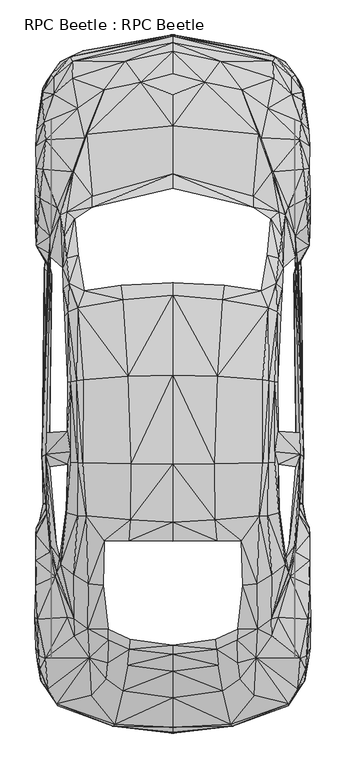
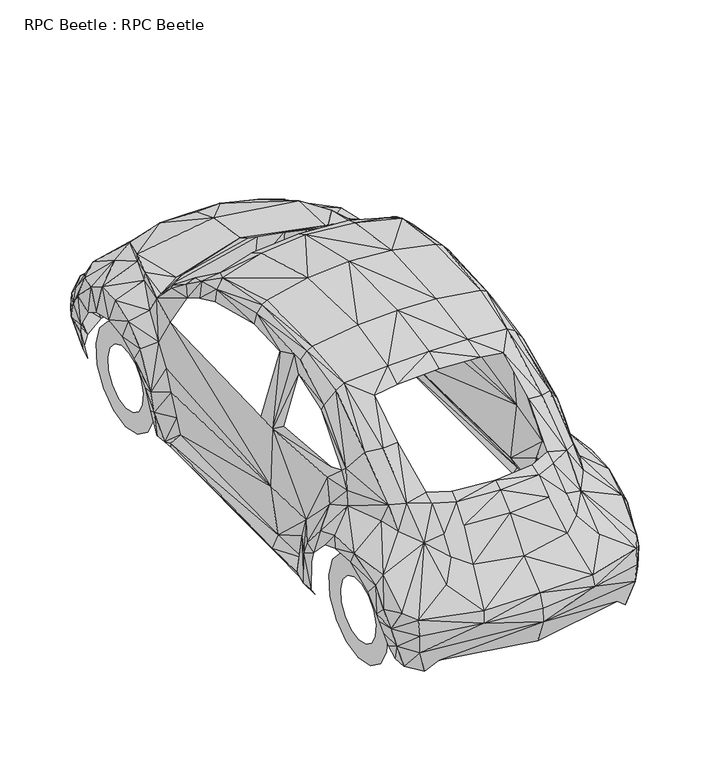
"""IFC4 building model written with IfcOpenShell, lengths in millimetres: proxy geometry, RPC Beetle : RPC Beetle."""

from ifc_helpers import new_model, si_unit, origin, place, context, project, spatial, triangles, source, transform, mapped, element, save


def rpc_beetle_rpc_beetle_e6dad58a(model_context):
    return source(origin(), model_context, "Body", "Tessellation", [
        triangles([(0.0, -748.5645555, 521.3897593), (0.0, -720.145796, 603.6245653), (0.0, -696.6751356, 283.1364967), (0.0, -552.6985313, 738.4055826), (0.0, -753.24988, 438.4543419), (0.0, -253.6668202, 1039.7142986), (0.0, -401.1027337, 921.397756), (0.0, -304.8118089, 1012.2589251), (0.0, 339.3171518, 1395.7149525), (0.0, 448.6132421, 1442.130724), (0.0, 778.0780157, 1504.0475842), (0.0, 1285.0174942, 1509.4774853), (0.0, 1741.0748314, 1402.3269035), (0.0, 2430.9628086, 967.2005562), (0.0, 3130.0025528, 632.0433249), (0.0, 3001.4394699, 771.5097393), (0.0, 2704.2468544, 928.754211), (0.0, 3164.2013374, 220.1686106), (0.0, 2883.1667473, 858.7363918), (0.0, 3222.5277191, 395.8043289), (0.0, 3179.0018875, 555.7637512), (0.0, 3213.9451035, 530.2788242), (-338.1786312, -715.5042189, 523.0099365), (-331.0411308, -702.1487114, 593.4656287), (-244.7339716, -218.0229748, 1034.0655882), (-248.9814594, -275.9551764, 1002.9319508), (-257.7391552, -368.1737844, 911.8518997), (-249.0690268, 342.8202084, 1381.001897), (-285.2383307, -511.5373446, 760.4312004), (-240.1361781, 460.085834, 1426.5857426), (-236.4579324, 780.8804609, 1493.4070999), (-652.4925127, -590.2252742, 370.4945729), (-540.0874552, -593.3342777, 283.4430006), (-181.240627, 2954.2792671, 806.3215679), (-253.1851454, 1278.5806778, 1496.1656525), (-379.8652946, -444.3657907, 798.2645016), (-370.9324459, -353.3294506, 889.169418), (-367.9986134, -222.226679, 1003.4574274), (-368.3927027, -160.7038173, 1036.6928988), (-390.1556185, 342.8640284, 1359.0200993), (-282.5672364, 1713.2691158, 1399.3055763), (-397.3369025, 87.4894363, 1215.350017), (-463.1072702, -537.7666666, 704.819842), (-271.488752, 3072.3331078, 662.6953056), (-475.7621301, -323.0715955, 849.8473269), (-463.7202779, 3085.9075699, 214.2571618), (-482.2428391, 95.7654664, 1203.3957321), (-485.0452844, -159.3025947, 1005.0776047), (-568.725133, 3071.5011818, 546.7432989), (-493.54026, 483.2499724, 1391.2922573), (-583.2629085, 3099.3942467, 522.0465869), (-510.267473, 3132.2794487, 369.399836), (-391.8633631, 2911.6292542, 782.7633402), (-656.3459112, -597.8445039, 480.0971852), (-660.2431297, -584.8393021, 576.2567591), (-562.2882076, -200.069692, 879.711129), (-560.0550227, -101.4579695, 987.1680874), (-512.4569106, 786.1788294, 1448.4362984), (-541.7951998, 484.7825824, 1359.8520252), (-563.9959886, 148.5744068, 1172.3059147), (-608.4850971, -561.2372907, 218.460866), (-511.2746063, 1258.5255066, 1456.1868427), (-542.4082438, 784.6900394, 1430.6581684), (-458.8597824, 2304.063723, 949.0283369), (-601.0410384, -92.7440574, 893.1979511), (-503.7429803, 1765.2899231, 1320.9679161), (-546.0426876, 1253.0081108, 1441.51768), (-603.0115213, 501.1594534, 1278.5806778), (-580.1539412, 788.8937799, 1378.7250011), (-607.2152255, 519.8571493, 1235.1424862), (-601.2599931, 965.2738569, 1337.0383015), (-712.482819, -503.0861526, 590.4880125), (-542.6709821, 1670.0499516, 1361.1657532), (-490.6064275, 2657.8746849, 893.5044731), (-599.6398158, 778.0780157, 1307.3059593), (-598.0634222, 1243.7249565, 1343.7817852), (-639.5749146, 208.1267766, 1062.4843477), (-680.4296156, -470.200987, 218.6798025), (-538.4672779, 1966.7170177, 1180.5819357), (-580.9859035, 1248.2351463, 1401.7577522), (-644.5230137, 243.2889472, 1028.2854904), (-502.3417577, 2635.8053925, 866.0052795), (-660.7247864, 162.2364272, 955.2462713), (-690.2382465, -396.5925076, 226.8244725), (-559.1354568, 2175.0189835, 1011.1642244), (-670.1830753, 140.867628, 872.7049433), (-662.476351, 324.2976834, 1009.4564798), (-615.0971935, 1623.4589001, 1262.1161304), (-594.647933, 1646.0976345, 1321.2744381), (-589.4370955, 1809.603788, 1269.4287655), (-728.8159063, -481.9801008, 373.2094508), (-751.5859554, -454.4371236, 476.5503087), (-694.0478251, 315.3210511, 957.7860146), (-726.5826851, -327.3190833, 735.5593174), (-622.9353052, 1777.2441353, 1192.7989225), (-564.6528162, 2445.7196114, 934.1402195), (-731.7935589, -393.8776297, 324.1225488), (-571.0021379, 2444.2743507, 884.1775715), (-698.6456549, 279.8523585, 807.6352232), (-604.281393, 1949.7708138, 1170.4667828), (-587.422829, 3013.0873055, 200.1134757), (-690.9388578, 574.2424925, 283.6181534), (-750.2284801, -381.0038152, 396.9865969), (-627.533135, 1896.2612892, 1124.7078026), (-602.486081, 2215.5670898, 949.1596516), (-619.4322487, 2072.8166462, 1075.2705585), (-710.4685524, 549.6333478, 448.6132421), (-764.7225082, -360.3356363, 467.5298927), (-699.5214008, 762.6206743, 1015.4992796), (-763.3212856, -313.2191809, 670.9275066), (-757.8477098, -390.9437971, 564.6528162), (-717.4746655, 496.2989579, 583.5694304), (-722.7292866, 461.2243546, 180.9779068), (-717.6498728, 554.4500959, 179.883188), (-771.4659193, -341.8130751, 511.011868), (-573.9359705, 2975.4727409, 682.6190168), (-730.7864256, 375.880545, 185.1815928), (-541.1821558, 2805.3982384, 782.9385475), (-639.7501219, 2198.4457512, 944.2553724), (-738.9310593, 551.5600471, 222.4018318), (-781.5810722, -268.773856, 609.2294921), (-772.2979179, -106.055763, 755.9210106), (-721.7221533, 957.7422672, 967.0254215), (-703.3309793, 810.1311464, 292.3320837), (-724.8311932, 835.0468494, 964.354291), (-757.7601425, 370.5383566, 225.4670335), (-785.3469034, -89.941594, 695.4928677), (-779.654373, 80.9211599, 675.5690838), (-779.391671, 89.5037119, 754.6511026), (-760.3874531, 444.1030523, 223.1462268), (-778.0780157, 192.1001749, 630.9048042), (-658.6229525, 2237.154871, 849.7597595), (-770.9404427, 345.4913389, 426.193535), (-774.1807972, 315.1458801, 501.68493), (-781.1869829, 232.2542464, 695.886957), (-719.22623, 810.0873991, 185.8384204), (-689.8879045, 1858.8658974, 293.9084591), (-696.6751356, 1958.8788334, 956.4286119), (-779.7419403, 377.3693713, 532.3806581), (-778.121763, 416.9979481, 439.7241772), (-745.4993357, 819.5895081, 613.6521509), (-677.7147377, 2884.8305992, 670.6209846), (-697.5509542, 2077.4143307, 756.8843239), (-639.6187346, 3069.1803932, 391.6881921), (-713.0082956, 1918.243087, 536.7157496), (-718.1752768, 1909.8794987, 192.9759572), (-705.1701113, 1981.9554771, 648.2888449), (-730.7864256, 1891.0943081, 233.348947), (-673.9927265, 2907.8634956, 198.6684513), (-726.8892071, 2038.9242382, 189.9545391), (-721.634586, 1973.3728615, 189.9545391), (-678.1963943, 2982.566494, 540.5253282), (-699.6089682, 2815.6885986, 206.2000773), (-696.3686136, 2991.5871643, 517.4050097), (-723.6488525, 2624.6831062, 787.5801247), (-699.0834915, 1882.4679451, 390.3745368), (-764.8976429, 2042.1645927, 362.5688576), (-741.7773245, 2457.6738235, 808.6861765), (-716.1610102, 2965.1387787, 449.5328081), (-766.4302528, 2001.1348297, 376.5811563), (-731.5746042, 2724.4334129, 727.6336384), (-771.1593973, 2084.5957237, 482.2428391), (-759.1175451, 2291.4088268, 780.0922823), (-769.0137434, 2143.3161221, 699.0397442), (-777.5525391, 2022.8538528, 494.8101316), (-742.4779358, 2846.8660561, 601.8730371), (-782.1065489, 2185.659613, 616.4545961), (-739.5441032, 2918.4163399, 427.3758393), (-741.1204605, 2896.5223274, 519.8133657), (-750.4036148, 2804.4349251, 398.0813338), (-782.2378635, 2313.1717426, 680.7361376), (-778.0780157, 2462.7970573, 693.5223484), (-759.9057238, 2786.6130478, 455.2253386), (-774.1807972, 2682.8342079, 602.6612157), (-780.3549843, 2589.4335136, 666.3297495), (-742.6093231, 809.1240131, 220.3875652), (0.0, 2349.0782719, 1011.1642244), (-458.8597824, 2239.9573162, 1006.6102146), (0.0, 1812.0122166, 1368.2157589), (-293.9522428, 1795.8104439, 1359.1514866), (-580.2415086, 849.7160122, 1381.7900757), (338.1786312, -715.5042189, 523.0099365), (331.0411308, -702.1487114, 593.4656287), (244.7339716, -218.0229748, 1034.0655882), (248.9814594, -275.9551764, 1002.9319508), (257.7391552, -368.1737844, 911.8518997), (249.0690268, 342.8202084, 1381.001897), (285.2383307, -511.5373446, 760.4312004), (240.1361781, 460.085834, 1426.5857426), (236.4579324, 780.8804609, 1493.4070999), (652.4925127, -590.2252742, 370.4945729), (540.0874552, -593.3342777, 283.4430006), (181.240627, 2954.2792671, 806.3215679), (253.1851454, 1278.5806778, 1496.1656525), (379.8652946, -444.3657907, 798.2645016), (370.9324459, -353.3294506, 889.169418), (367.9986134, -222.226679, 1003.4574274), (368.3927027, -160.7038173, 1036.6928988), (390.1556185, 342.8640284, 1359.0200993), (282.5672364, 1713.2691158, 1399.3055763), (397.3369025, 87.4894363, 1215.350017), (463.1072702, -537.7666666, 704.819842), (271.488752, 3072.3331078, 662.6953056), (475.7621301, -323.0715955, 849.8473269), (463.7202779, 3085.9075699, 214.2571618), (482.2428391, 95.7654664, 1203.3957321), (485.0452844, -159.3025947, 1005.0776047), (568.725133, 3071.5011818, 546.7432989), (493.54026, 483.2499724, 1391.2922573), (583.2629085, 3099.3942467, 522.0465869), (510.267473, 3132.2794487, 369.399836), (391.8633631, 2911.6292542, 782.7633402), (656.3459112, -597.8445039, 480.0971852), (660.2431297, -584.8393021, 576.2567591), (562.2882076, -200.069692, 879.711129), (560.0550227, -101.4579695, 987.1680874), (512.4569106, 786.1788294, 1448.4362984), (541.7951998, 484.7825824, 1359.8520252), (563.9959886, 148.5744068, 1172.3059147), (608.4850971, -561.2372907, 218.460866), (511.2746063, 1258.5255066, 1456.1868427), (542.4082438, 784.6900394, 1430.6581684), (458.8597824, 2304.063723, 949.0283369), (601.0410384, -92.7440574, 893.1979511), (503.7429803, 1765.2899231, 1320.9679161), (546.0426876, 1253.0081108, 1441.51768), (603.0115213, 501.1594534, 1278.5806778), (580.1539412, 788.8937799, 1378.7250011), (607.2152255, 519.8571493, 1235.1424862), (601.2599931, 965.2738569, 1337.0383015), (712.482819, -503.0861526, 590.4880125), (542.6709821, 1670.0499516, 1361.1657532), (490.6064275, 2657.8746849, 893.5044731), (599.6398158, 778.0780157, 1307.3059593), (598.0634222, 1243.7249565, 1343.7817852), (639.5749146, 208.1267766, 1062.4843477), (680.4734356, -470.200987, 218.6798025), (538.4672779, 1966.7170177, 1180.5819357), (580.9859035, 1248.2351463, 1401.7577522), (644.5230137, 243.2889472, 1028.2854904), (502.3417577, 2635.8053925, 866.0052795), (660.7247864, 162.2364272, 955.2462713), (690.2382465, -396.5925076, 226.8244725), (559.1354568, 2175.0189835, 1011.1642244), (670.1830753, 140.867628, 872.7049433), (662.476351, 324.2976834, 1009.4564798), (615.0971935, 1623.4589001, 1262.1161304), (594.647933, 1646.0976345, 1321.2744381), (589.4370955, 1809.603788, 1269.4287655), (728.8159063, -481.9801008, 373.2094508), (751.5859554, -454.4371236, 476.5503087), (694.0478251, 315.3210511, 957.7860146), (726.5826851, -327.3190833, 735.5593174), (622.9353052, 1777.2441353, 1192.7989225), (564.6528162, 2445.7196114, 934.1402195), (731.7935589, -393.8776297, 324.1225488), (571.0021379, 2444.2743507, 884.1775715), (698.6456549, 279.8523585, 807.6352232), (604.281393, 1949.7708138, 1170.4667828), (587.422829, 3013.0873055, 200.1134757), (690.9388578, 574.2424925, 283.6181534), (750.2284801, -381.0038152, 396.9865969), (627.533135, 1896.2612892, 1124.7078026), (602.486081, 2215.5670898, 949.1596516), (619.4322487, 2072.8166462, 1075.2705585), (710.4685524, 549.6333478, 448.6132421), (764.7225082, -360.3356363, 467.5298927), (699.5214008, 762.6206743, 1015.4992796), (763.3212856, -313.2191809, 670.9275066), (757.8477098, -390.9437971, 564.6528162), (717.4746655, 496.2989579, 583.5694304), (722.7292866, 461.2243546, 180.9779068), (717.6498728, 554.4500959, 179.883188), (771.4659193, -341.8130751, 511.011868), (573.9359705, 2975.4727409, 682.6190168), (730.7864256, 375.880545, 185.1815928), (541.1821558, 2805.3982384, 782.9385475), (639.7501219, 2198.4457512, 944.2553724), (738.9310593, 551.5600471, 222.4018318), (781.5810722, -268.773856, 609.2294921), (772.2979179, -106.055763, 755.9210106), (721.7659733, 957.7422672, 967.0254215), (703.3309793, 810.1311464, 292.3320837), (724.8311932, 835.0468494, 964.354291), (757.7601425, 370.5383566, 225.4670335), (785.3469034, -89.941594, 695.4928677), (779.654373, 80.9211599, 675.5690838), (779.4354183, 89.5037119, 754.6511026), (760.3874531, 444.1030523, 223.1462268), (778.0780157, 192.1001749, 630.9048042), (658.6229525, 2237.154871, 849.7597595), (770.9404427, 345.4913389, 426.193535), (774.1807972, 315.1458801, 501.68493), (781.1869829, 232.2542464, 695.886957), (719.22623, 810.0873991, 185.8384204), (689.8879045, 1858.8658974, 293.9084591), (696.6751356, 1958.8788334, 956.4286119), (779.7419403, 377.3693713, 532.3806581), (778.121763, 416.9979481, 439.7241772), (745.4993357, 819.5895081, 613.6521509), (677.7147377, 2884.8305992, 670.6209846), (697.5509542, 2077.4143307, 756.8843239), (639.6187346, 3069.1803932, 391.6881921), (713.0082956, 1918.243087, 536.7157496), (718.1752768, 1909.8794987, 192.9759572), (705.1701113, 1981.9554771, 648.2888449), (730.7864256, 1891.0943081, 233.348947), (673.9927265, 2907.8634956, 198.6684513), (726.8892071, 2038.9242382, 189.9545391), (721.634586, 1973.3728615, 189.9545391), (678.1963943, 2982.566494, 540.5253282), (699.6089682, 2815.6885986, 206.2000773), (696.3686136, 2991.5871643, 517.4050097), (723.6488525, 2624.6831062, 787.5801247), (699.0834915, 1882.4679451, 390.3745368), (764.8976429, 2042.1645927, 362.5688576), (741.7773245, 2457.6738235, 808.6861765), (716.1610102, 2965.1387787, 449.5328081), (766.4302528, 2001.1348297, 376.5811563), (731.5746042, 2724.4334129, 727.6336384), (771.2032173, 2084.5957237, 482.2428391), (759.1175451, 2291.4088268, 780.0922823), (769.0137434, 2143.3161221, 699.0397442), (777.5525391, 2022.8538528, 494.8101316), (742.4779358, 2846.8660561, 601.8730371), (782.1065489, 2185.659613, 616.4545961), (739.5441032, 2918.4163399, 427.3758393), (741.1204605, 2896.5223274, 519.8133657), (750.4036148, 2804.4349251, 398.0813338), (782.2378635, 2313.1717426, 680.7361376), (778.0780157, 2462.7970573, 693.5223484), (759.9057238, 2786.6130478, 455.2253386), (774.1807972, 2682.8342079, 602.6612157), (780.3549843, 2589.4335136, 666.3297495), (742.6093231, 809.1240131, 220.3875652), (458.8597824, 2239.9573162, 1006.6102146), (293.9522428, 1795.8104439, 1359.1514866), (580.2415086, 849.7160122, 1381.7900757), (-693.1720791, 2430.2621246, 0.0015107), (-693.1720791, 2430.2621246, 117.8363848), (-693.1720791, 2557.1174629, 26.9752316), (-693.1720791, 2507.7678589, 134.3008595), (-693.1720791, 2661.9910034, 103.1672311), (-693.1720791, 2571.918013, 180.8918292), (-693.1720791, 2726.8416962, 215.4847577), (-693.1720791, 2611.5466988, 249.5522095), (-693.1720791, 2740.4161583, 344.4419117), (-693.1720791, 2619.8226471, 328.3715263), (-693.1720791, 2700.3497086, 467.7941208), (-693.1720791, 2595.3447807, 403.731534), (-693.1720791, 2613.56082, 564.1288656), (-693.1720791, 2542.3169128, 462.6271033), (-693.1720791, 2495.1128174, 616.8940315), (-693.1720791, 2469.8908104, 494.899225), (-693.1720791, 2365.4114319, 616.8940315), (-693.1720791, 2390.6335842, 494.899225), (-693.1720791, 2246.9634293, 564.1288656), (-693.1720791, 2318.2073364, 462.6271033), (-693.1720791, 2160.1746861, 467.7941208), (-693.1720791, 2265.1794685, 403.731534), (-693.1720791, 2120.108091, 344.4419117), (-693.1720791, 2240.7017475, 328.3715263), (-693.1720791, 2133.6825531, 215.4847577), (-693.1720791, 2248.9776958, 249.5522095), (-693.1720791, 2198.5333912, 103.1672311), (-693.1720791, 2288.6063816, 180.8918292), (-693.1720791, 2303.4067863, 26.9752316), (-693.1720791, 2352.7565357, 134.3008595), (693.1720791, 2430.2621246, 0.0015107), (693.1720791, 2430.2621246, 117.8363848), (693.1720791, 2303.4067863, 26.9752316), (693.1720791, 2352.7565357, 134.3008595), (693.1720791, 2198.5333912, 103.1672311), (693.1720791, 2288.6063816, 180.8918292), (693.1720791, 2133.6825531, 215.4847577), (693.1720791, 2248.9776958, 249.5522095), (693.1720791, 2120.108091, 344.4419117), (693.1720791, 2240.7017475, 328.3715263), (693.1720791, 2160.1746861, 467.7941208), (693.1720791, 2265.1794685, 403.731534), (693.1720791, 2246.9634293, 564.1288656), (693.1720791, 2318.2073364, 462.6271033), (693.1720791, 2365.4114319, 616.8940315), (693.1720791, 2390.6335842, 494.899225), (693.1720791, 2495.1128174, 616.8940315), (693.1720791, 2469.8908104, 494.899225), (693.1720791, 2613.56082, 564.1288656), (693.1720791, 2542.3169128, 462.6271033), (693.1720791, 2700.3497086, 467.7941208), (693.1720791, 2595.3447807, 403.731534), (693.1720791, 2740.4161583, 344.4419117), (693.1720791, 2619.8226471, 328.3715263), (693.1720791, 2726.8416962, 215.4847577), (693.1720791, 2611.5466988, 249.5522095), (693.1720791, 2661.9910034, 103.1672311), (693.1720791, 2571.918013, 180.8918292), (693.1720791, 2557.1174629, 26.9752316), (693.1720791, 2507.7678589, 134.3008595), (-693.1720791, -13.5744371, 0.0015107), (-693.1720791, -13.5744371, 117.8363848), (-693.1720791, 113.2808671, 26.9752316), (-693.1720791, 63.9312222, 134.3008595), (-693.1720791, 218.154344, 103.1672311), (-693.1720791, 128.0813808, 180.8918292), (-693.1720791, 283.0051276, 215.4847577), (-693.1720791, 167.7099848, 249.5522095), (-693.1720791, 296.5795534, 344.4419117), (-693.1720791, 175.9860058, 328.3715263), (-693.1720791, 256.5130673, 467.7941208), (-693.1720791, 151.5082394, 403.731534), (-693.1720791, 169.7242514, 564.1288656), (-693.1720791, 98.4803533, 462.6271033), (-693.1720791, 51.2763442, 616.8940315), (-693.1720791, 26.0541623, 494.899225), (-693.1720791, -78.4252185, 616.8940315), (-693.1720791, -53.2030343, 494.899225), (-693.1720791, -196.8731212, 564.1288656), (-693.1720791, -125.6292322, 462.6271033), (-693.1720791, -283.6619552, 467.7941208), (-693.1720791, -178.6571182, 403.731534), (-693.1720791, -323.7284231, 344.4419117), (-693.1720791, -203.1348938, 328.3715263), (-693.1720791, -310.1539973, 215.4847577), (-693.1720791, -194.8588546, 249.5522095), (-693.1720791, -245.3032137, 103.1672311), (-693.1720791, -155.2302597, 180.8918292), (-693.1720791, -140.4297459, 26.9752316), (-693.1720791, -91.0800965, 134.3008595), (693.1720791, -13.5744371, 0.0015107), (693.1720791, -13.5744371, 117.8363848), (693.1720791, -140.4297459, 26.9752316), (693.1720791, -91.0800965, 134.3008595), (693.1720791, -245.3032137, 103.1672311), (693.1720791, -155.2302597, 180.8918292), (693.1720791, -310.1539973, 215.4847577), (693.1720791, -194.8588546, 249.5522095), (693.1720791, -323.7284231, 344.4419117), (693.1720791, -203.1348938, 328.3715263), (693.1720791, -283.6619552, 467.7941208), (693.1720791, -178.6571182, 403.731534), (693.1720791, -196.8731212, 564.1288656), (693.1720791, -125.6292322, 462.6271033), (693.1720791, -78.4252185, 616.8940315), (693.1720791, -53.2030343, 494.899225), (693.1720791, 51.2763442, 616.8940315), (693.1720791, 26.0541623, 494.899225), (693.1720791, 169.7242514, 564.1288656), (693.1720791, 98.4803533, 462.6271033), (693.1720791, 256.5130673, 467.7941208), (693.1720791, 151.5082394, 403.731534), (693.1720791, 296.5795534, 344.4419117), (693.1720791, 175.9860058, 328.3715263), (693.1720791, 283.0051276, 215.4847577), (693.1720791, 167.7099848, 249.5522095), (693.1720791, 218.154344, 103.1672311), (693.1720791, 128.0813808, 180.8918292), (693.1720791, 113.2808671, 26.9752316), (693.1720791, 63.9312222, 134.3008595)], [[67, 58, 62], [67, 63, 58], [53, 82, 74], [34, 17, 19], [118, 82, 53], [155, 98, 82], [155, 158, 98], [34, 74, 17], [172, 155, 175], [172, 158, 155], [159, 168, 169], [166, 142, 169], [175, 161, 174], [175, 155, 161], [142, 152, 169], [154, 169, 152], [160, 145, 165], [160, 156, 145], [162, 160, 165], [162, 157, 160], [34, 53, 74], [74, 96, 64], [82, 96, 74], [82, 98, 96], [36, 29, 27], [29, 43, 24], [23, 55, 54], [23, 24, 55], [23, 2, 24], [23, 1, 2], [5, 1, 23], [134, 140, 133], [134, 139, 140], [117, 130, 113], [117, 126, 130], [113, 120, 114], [113, 130, 120], [140, 112, 107], [140, 139, 112], [92, 108, 103], [91, 103, 97], [91, 92, 103], [61, 33, 32], [84, 78, 91], [84, 91, 97], [38, 26, 25], [77, 81, 83], [63, 50, 58], [63, 59, 50], [68, 63, 69], [68, 59, 63], [181, 75, 69], [74, 64, 17], [64, 14, 17], [64, 178, 14], [178, 177, 14], [34, 19, 16], [53, 34, 44], [21, 44, 15], [21, 49, 44], [44, 34, 15], [34, 16, 15], [22, 49, 21], [22, 51, 49], [20, 51, 22], [20, 52, 51], [18, 52, 20], [18, 46, 52], [51, 152, 49], [51, 154, 152], [101, 144, 46], [144, 52, 46], [101, 159, 144], [159, 169, 154], [101, 168, 159], [101, 149, 168], [149, 170, 168], [149, 153, 170], [168, 173, 169], [168, 170, 173], [49, 142, 116], [49, 152, 142], [49, 116, 44], [116, 142, 118], [161, 155, 118], [155, 82, 118], [142, 161, 118], [158, 132, 98], [158, 163, 132], [172, 163, 158], [172, 171, 163], [98, 119, 96], [98, 132, 119], [171, 164, 163], [171, 167, 164], [163, 143, 132], [163, 164, 143], [96, 105, 64], [96, 119, 105], [105, 178, 64], [105, 85, 178], [167, 165, 164], [167, 162, 165], [165, 143, 164], [165, 147, 143], [150, 160, 157], [150, 151, 160], [151, 156, 160], [151, 148, 137], [13, 35, 12], [13, 41, 35], [12, 31, 11], [12, 35, 31], [35, 58, 31], [35, 62, 58], [11, 30, 10], [11, 31, 30], [31, 50, 30], [31, 58, 50], [10, 28, 9], [10, 30, 28], [30, 40, 28], [30, 50, 40], [125, 75, 181], [125, 109, 75], [125, 87, 109], [125, 93, 87], [123, 141, 125], [137, 141, 156], [137, 124, 141], [148, 124, 137], [148, 176, 124], [146, 176, 148], [146, 136, 176], [141, 112, 125], [112, 93, 125], [112, 99, 93], [124, 112, 141], [124, 107, 112], [124, 102, 107], [176, 102, 124], [176, 120, 102], [136, 120, 176], [136, 114, 120], [47, 40, 50], [47, 42, 40], [48, 42, 47], [48, 39, 42], [57, 47, 60], [57, 48, 47], [60, 50, 59], [60, 47, 50], [59, 77, 60], [59, 68, 77], [77, 57, 60], [77, 83, 57], [70, 77, 68], [70, 81, 77], [75, 68, 69], [75, 70, 68], [26, 6, 25], [26, 8, 6], [27, 8, 26], [27, 7, 8], [29, 7, 27], [29, 4, 7], [24, 4, 29], [24, 2, 4], [32, 5, 23], [33, 5, 32], [33, 3, 5], [32, 23, 54], [55, 45, 72], [55, 24, 43], [99, 83, 93], [99, 86, 83], [135, 86, 99], [135, 129, 86], [131, 129, 135], [131, 128, 129], [93, 81, 87], [93, 83, 81], [128, 122, 129], [128, 127, 122], [122, 86, 129], [122, 65, 86], [86, 57, 83], [86, 65, 57], [127, 110, 122], [127, 121, 110], [110, 94, 122], [122, 94, 65], [94, 56, 65], [56, 57, 65], [56, 48, 57], [56, 45, 48], [94, 45, 56], [115, 110, 121], [115, 111, 110], [111, 94, 110], [111, 72, 94], [108, 92, 115], [92, 111, 115], [78, 32, 91], [78, 61, 32], [45, 38, 48], [45, 37, 38], [37, 26, 38], [37, 27, 26], [36, 27, 37], [134, 135, 139], [134, 131, 135], [139, 99, 112], [139, 135, 99], [126, 140, 130], [126, 133, 140], [130, 107, 120], [130, 140, 107], [120, 107, 102], [45, 36, 37], [92, 55, 72], [92, 54, 55], [91, 54, 92], [91, 32, 54], [92, 72, 111], [72, 45, 94], [43, 45, 55], [43, 36, 45], [43, 29, 36], [79, 90, 66], [79, 100, 90], [90, 73, 66], [85, 100, 79], [85, 106, 100], [85, 105, 106], [105, 119, 106], [95, 88, 89], [90, 89, 73], [89, 67, 73], [73, 67, 62], [89, 76, 80], [89, 80, 67], [88, 76, 89], [73, 35, 41], [73, 62, 35], [69, 63, 181], [80, 63, 67], [76, 71, 80], [146, 148, 151], [141, 147, 145], [151, 137, 156], [173, 166, 169], [173, 174, 166], [166, 174, 161], [166, 161, 142], [52, 144, 51], [144, 154, 51], [144, 159, 154], [116, 53, 44], [116, 118, 53], [119, 143, 138], [143, 119, 132], [143, 147, 138], [138, 104, 119], [119, 104, 106], [104, 100, 106], [104, 90, 100], [104, 95, 90], [95, 89, 90], [25, 39, 38], [38, 39, 48], [141, 138, 147], [156, 141, 145], [165, 145, 147], [41, 179, 180], [41, 13, 179], [66, 41, 180], [66, 73, 41], [123, 125, 71], [125, 181, 71], [71, 181, 80], [181, 63, 80], [138, 141, 123], [226, 221, 217], [226, 217, 222], [212, 233, 241], [193, 19, 17], [277, 212, 241], [314, 241, 257], [314, 257, 317], [193, 17, 233], [331, 334, 314], [331, 314, 317], [318, 328, 327], [325, 328, 301], [334, 333, 320], [334, 320, 314], [301, 328, 311], [313, 311, 328], [319, 324, 304], [319, 304, 315], [321, 324, 319], [321, 319, 316], [193, 233, 212], [233, 223, 255], [241, 233, 255], [241, 255, 257], [195, 186, 188], [188, 183, 202], [182, 213, 214], [182, 214, 183], [182, 183, 2], [182, 2, 1], [5, 182, 1], [293, 292, 299], [293, 299, 298], [276, 272, 289], [276, 289, 285], [272, 273, 279], [272, 279, 289], [299, 266, 271], [299, 271, 298], [251, 262, 267], [250, 256, 262], [250, 262, 251], [220, 191, 192], [243, 250, 237], [243, 256, 250], [197, 184, 185], [236, 242, 240], [222, 217, 209], [222, 209, 218], [227, 228, 222], [227, 222, 218], [338, 228, 234], [233, 17, 223], [223, 17, 14], [223, 14, 336], [336, 14, 177], [193, 16, 19], [212, 203, 193], [21, 15, 203], [21, 203, 208], [203, 15, 193], [193, 15, 16], [22, 21, 208], [22, 208, 210], [20, 22, 210], [20, 210, 211], [18, 20, 211], [18, 211, 205], [210, 208, 311], [210, 311, 313], [260, 205, 303], [303, 205, 211], [260, 303, 318], [318, 313, 328], [260, 318, 327], [260, 327, 308], [308, 327, 329], [308, 329, 312], [327, 328, 332], [327, 332, 329], [208, 275, 301], [208, 301, 311], [208, 203, 275], [275, 277, 301], [320, 277, 314], [314, 277, 241], [301, 277, 320], [317, 257, 291], [317, 291, 322], [331, 317, 322], [331, 322, 330], [257, 255, 278], [257, 278, 291], [330, 322, 323], [330, 323, 326], [322, 291, 302], [322, 302, 323], [255, 223, 264], [255, 264, 278], [264, 223, 336], [264, 336, 244], [326, 323, 324], [326, 324, 321], [324, 323, 302], [324, 302, 306], [309, 316, 319], [309, 319, 310], [310, 319, 315], [310, 296, 307], [13, 12, 194], [13, 194, 200], [12, 11, 190], [12, 190, 194], [194, 190, 217], [194, 217, 221], [11, 10, 189], [11, 189, 190], [190, 189, 209], [190, 209, 217], [10, 9, 187], [10, 187, 189], [189, 187, 199], [189, 199, 209], [284, 338, 234], [284, 234, 268], [284, 268, 246], [284, 246, 252], [282, 284, 300], [296, 315, 300], [296, 300, 283], [307, 296, 283], [307, 283, 335], [305, 307, 335], [305, 335, 295], [300, 284, 271], [271, 284, 252], [271, 252, 258], [283, 300, 271], [283, 271, 266], [283, 266, 261], [335, 283, 261], [335, 261, 279], [295, 335, 279], [295, 279, 273], [206, 209, 199], [206, 199, 201], [207, 206, 201], [207, 201, 198], [216, 219, 206], [216, 206, 207], [219, 218, 209], [219, 209, 206], [218, 219, 236], [218, 236, 227], [236, 219, 216], [236, 216, 242], [229, 227, 236], [229, 236, 240], [234, 228, 227], [234, 227, 229], [185, 184, 6], [185, 6, 8], [186, 185, 8], [186, 8, 7], [188, 186, 7], [188, 7, 4], [183, 188, 4], [183, 4, 2], [191, 182, 5], [192, 191, 5], [192, 5, 3], [191, 213, 182], [214, 231, 204], [214, 202, 183], [258, 252, 242], [258, 242, 245], [294, 258, 245], [294, 245, 288], [290, 294, 288], [290, 288, 287], [252, 246, 240], [252, 240, 242], [287, 288, 281], [287, 281, 286], [281, 288, 245], [281, 245, 224], [245, 242, 216], [245, 216, 224], [286, 281, 269], [286, 269, 280], [269, 281, 253], [281, 224, 253], [253, 224, 215], [215, 224, 216], [215, 216, 207], [215, 207, 204], [253, 215, 204], [274, 280, 269], [274, 269, 270], [270, 269, 253], [270, 253, 231], [267, 274, 251], [251, 274, 270], [237, 250, 191], [237, 191, 220], [204, 207, 197], [204, 197, 196], [196, 197, 185], [196, 185, 186], [195, 196, 186], [293, 298, 294], [293, 294, 290], [298, 271, 258], [298, 258, 294], [285, 289, 299], [285, 299, 292], [289, 279, 266], [289, 266, 299], [279, 261, 266], [204, 196, 195], [251, 231, 214], [251, 214, 213], [250, 251, 213], [250, 213, 191], [251, 270, 231], [231, 253, 204], [202, 214, 204], [202, 204, 195], [202, 195, 188], [238, 225, 249], [238, 249, 259], [249, 225, 232], [244, 238, 259], [244, 259, 265], [244, 265, 264], [264, 265, 278], [254, 248, 247], [249, 232, 248], [248, 232, 226], [232, 221, 226], [248, 239, 235], [248, 226, 239], [247, 248, 235], [232, 200, 194], [232, 194, 221], [228, 338, 222], [239, 226, 222], [235, 239, 230], [305, 310, 307], [300, 304, 306], [310, 315, 296], [332, 328, 325], [332, 325, 333], [325, 320, 333], [325, 301, 320], [211, 210, 303], [303, 210, 313], [303, 313, 318], [275, 203, 212], [275, 212, 277], [278, 297, 302], [302, 291, 278], [302, 297, 306], [297, 278, 263], [278, 265, 263], [263, 265, 259], [263, 259, 249], [263, 249, 254], [254, 249, 248], [184, 197, 198], [197, 207, 198], [300, 306, 297], [315, 304, 300], [324, 306, 304], [200, 337, 179], [200, 179, 13], [225, 337, 200], [225, 200, 232], [282, 230, 284], [284, 230, 338], [230, 239, 338], [338, 239, 222], [297, 282, 300], [339, 342, 341], [339, 340, 342], [341, 344, 343], [341, 342, 344], [343, 346, 345], [343, 344, 346], [345, 348, 347], [345, 346, 348], [347, 350, 349], [347, 348, 350], [349, 352, 351], [349, 350, 352], [351, 354, 353], [351, 352, 354], [353, 356, 355], [353, 354, 356], [355, 358, 357], [355, 356, 358], [357, 360, 359], [357, 358, 360], [359, 362, 361], [359, 360, 362], [361, 364, 363], [361, 362, 364], [363, 366, 365], [363, 364, 366], [365, 368, 367], [365, 366, 368], [367, 340, 339], [367, 368, 340], [369, 372, 371], [369, 370, 372], [371, 374, 373], [371, 372, 374], [373, 376, 375], [373, 374, 376], [375, 378, 377], [375, 376, 378], [377, 380, 379], [377, 378, 380], [379, 382, 381], [379, 380, 382], [381, 384, 383], [381, 382, 384], [383, 386, 385], [383, 384, 386], [385, 388, 387], [385, 386, 388], [387, 390, 389], [387, 388, 390], [389, 392, 391], [389, 390, 392], [391, 394, 393], [391, 392, 394], [393, 396, 395], [393, 394, 396], [395, 398, 397], [395, 396, 398], [397, 370, 369], [397, 398, 370], [399, 402, 401], [399, 400, 402], [401, 404, 403], [401, 402, 404], [403, 406, 405], [403, 404, 406], [405, 408, 407], [405, 406, 408], [407, 410, 409], [407, 408, 410], [409, 412, 411], [409, 410, 412], [411, 414, 413], [411, 412, 414], [413, 416, 415], [413, 414, 416], [415, 418, 417], [415, 416, 418], [417, 420, 419], [417, 418, 420], [419, 422, 421], [419, 420, 422], [421, 424, 423], [421, 422, 424], [423, 426, 425], [423, 424, 426], [425, 428, 427], [425, 426, 428], [427, 400, 399], [427, 428, 400], [429, 432, 431], [429, 430, 432], [431, 434, 433], [431, 432, 434], [433, 436, 435], [433, 434, 436], [435, 438, 437], [435, 436, 438], [437, 440, 439], [437, 438, 440], [439, 442, 441], [439, 440, 442], [441, 444, 443], [441, 442, 444], [443, 446, 445], [443, 444, 446], [445, 448, 447], [445, 446, 448], [447, 450, 449], [447, 448, 450], [449, 452, 451], [449, 450, 452], [451, 454, 453], [451, 452, 454], [453, 456, 455], [453, 454, 456], [455, 458, 457], [455, 456, 458], [457, 430, 429], [457, 458, 430]], closed=False),
    ])


if __name__ == "__main__":
    model = new_model("IFC4")
    model_context = context("Model", 3, world=origin())
    ifc_project = project(units=[si_unit("LENGTHUNIT", "METRE", prefix="MILLI")], contexts=[model_context])
    site = spatial("IfcSite", under=ifc_project)
    building = spatial("IfcBuilding", under=site)
    placement = place(None, origin())
    rpc_beetle_rpc_beetle_shape = rpc_beetle_rpc_beetle_e6dad58a(model_context)
    element("IfcBuildingElementProxy", 1, Name="RPC Beetle : RPC Beetle", ObjectType="RPC Beetle : RPC Beetle", at=placement, inside=building, context=model_context, shape_type="MappedRepresentation", body=[
        mapped(rpc_beetle_rpc_beetle_shape, transform((0.0, 0.0, 0.0), x_axis=(1.0, 0.0, 0.0), y_axis=(0.0, 1.0, 0.0), z_axis=(0.0, 0.0, 1.0))),
    ])
    save(model, "model.ifc")
